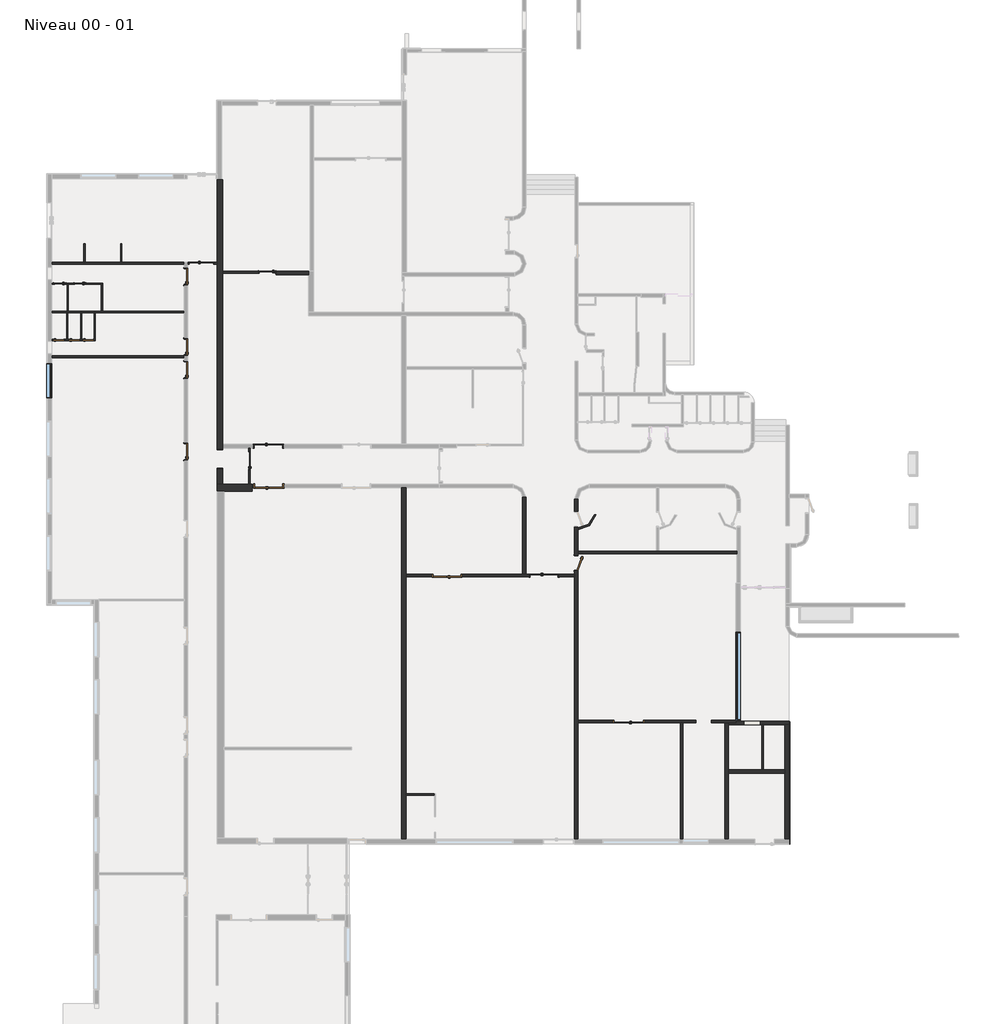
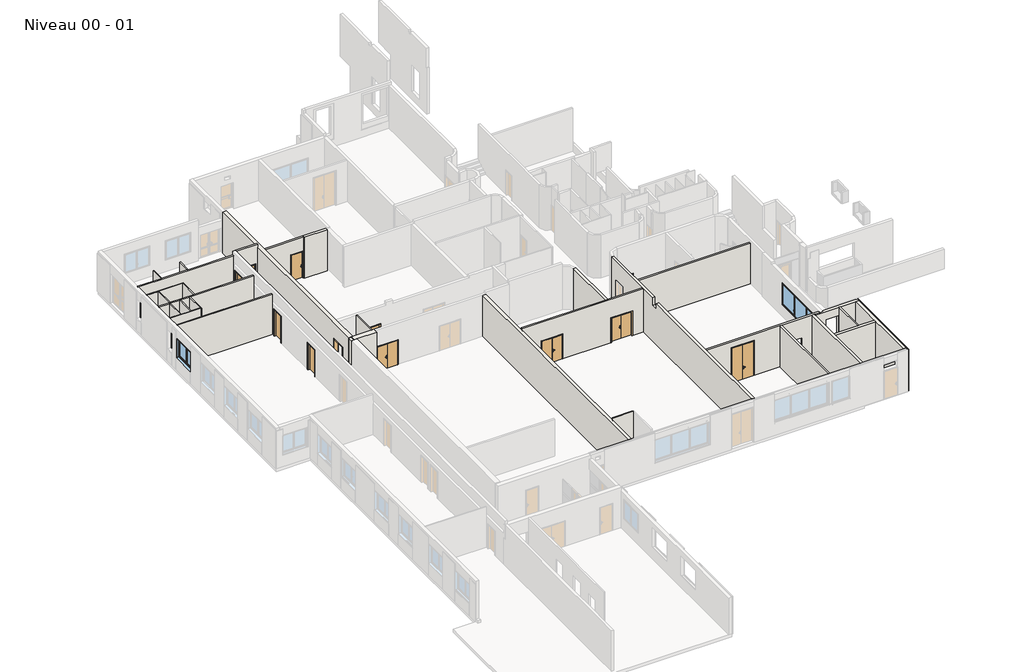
# One storey, part 4 of 8: 32 walls, 19 doors, 2 windows.
"""IFC4 building model written with IfcOpenShell, lengths in millimetres."""

from ifc_helpers import new_model, si_unit, point, frame, frame_2d, origin, place, context, project, spatial, polyline, circle_curve, trimmed, segment, composite_curve, outline, extrude, faceted_brep, transform, mapped, element, save
from components import door_50a5e481, door_373ab6a3, door_82d9676e, door_4948b6b3, door_5aba9885, double_r_1_43m_x_2_04m_b80630db, double_r_1_63m_x_2_04m_2a7b6570, double_r_1_63m_x_2_04m_f9d8fe67, double_r_1_63m_x_2_04m_f9c3b69e, double_r_1_73m_x_2_9m_4bc1b3c2, ouverture_en_rectangle_ouverture110x210_4d2e599e, window_180_x500_5ac30607, window_200_x_160_064ba838

model = new_model("IFC4")

# Units and contexts
model_context = context("Model", 3, world=origin())
ifc_project = project(units=[si_unit("LENGTHUNIT", "METRE", prefix="MILLI")], contexts=[model_context])

# Site, building, storey
site = spatial("IfcSite", under=ifc_project)
building = spatial("IfcBuilding", under=site)
storey = spatial("IfcBuildingStorey", under=building, Name="Niveau 00 - 01", Elevation=253.3082742)

# Doors
placement = place(None, origin())
door_shape = door_50a5e481(model_context)
element("IfcDoor", 1, ObjectType="@_Int. Simple : @_PP (0.63m x 2.04m)", at=placement, inside=storey, context=model_context, shape_type="MappedRepresentation", body=[
    mapped(door_shape, transform((-45352.9874559, -5802.305302, 253.3082742), x_axis=(1.0, 6.1910359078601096e-12, 0.0), y_axis=(-6.1910359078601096e-12, 1.0, 0.0), z_axis=(0.0, 0.0, 1.0))),
])
element("IfcDoor", 2, ObjectType="@_Int. Simple : @_PP (0.63m x 2.04m)", at=placement, inside=storey, context=model_context, shape_type="MappedRepresentation", body=[
    mapped(door_shape, transform((-44464.2374821, -5802.3053019, 253.3082742), x_axis=(1.0, 6.1910359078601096e-12, 0.0), y_axis=(-6.1910359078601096e-12, 1.0, 0.0), z_axis=(0.0, 0.0, 1.0))),
])
element("IfcDoor", 3, ObjectType="@_Int. Simple : @_PP (0.63m x 2.04m)", at=placement, inside=storey, context=model_context, shape_type="MappedRepresentation", body=[
    mapped(door_shape, transform((-43676.7814381, -5802.3053019, 253.3082742), x_axis=(1.0, 6.1910359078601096e-12, 0.0), y_axis=(-6.1910359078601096e-12, 1.0, 0.0), z_axis=(0.0, 0.0, 1.0))),
])
element("IfcDoor", 4, ObjectType="@_Int. Simple : @_PP (0.63m x 2.04m)", at=placement, inside=storey, context=model_context, shape_type="MappedRepresentation", body=[
    mapped(door_shape, transform((-44211.829971, -2598.201847, 253.3082742), x_axis=(-1.0, 0.0, 0.0), y_axis=(0.0, -1.0, 0.0), z_axis=(0.0, 0.0, 1.0))),
])
element("IfcDoor", 5, ObjectType="@_Int. Simple : @_PP (0.63m x 2.04m)", at=placement, inside=storey, context=model_context, shape_type="MappedRepresentation", body=[
    mapped(door_shape, transform((-45359.4790475, -2598.201847, 253.3082742), x_axis=(-1.0, 0.0, 0.0), y_axis=(0.0, -1.0, 0.0), z_axis=(0.0, 0.0, 1.0))),
])
door_2_shape = door_373ab6a3(model_context)
element("IfcDoor", 6, ObjectType="@_Int. Simple : @_PP (1.03m x 1.8m)", at=placement, inside=storey, context=model_context, shape_type="MappedRepresentation", body=[
    mapped(door_2_shape, transform((-34515.4589892, -12644.1151361, 253.3082742), x_axis=(0.0, 1.0, 0.0), y_axis=(-1.0, 0.0, 0.0), z_axis=(0.0, 0.0, 1.0))),
])
door_3_shape = door_82d9676e(model_context)
element("IfcDoor", 7, ObjectType="@_Int. Simple : @_PP (0.93m x 2.25)", at=placement, inside=storey, context=model_context, shape_type="MappedRepresentation", body=[
    mapped(door_3_shape, transform((-38143.9891749, -12131.6974193, 253.3082742), x_axis=(0.0, 1.0, 0.0), y_axis=(-1.0, 0.0, 0.0), z_axis=(0.0, 0.0, 1.0))),
])
element("IfcDoor", 8, ObjectType="@_Int. Simple : @_PP (0.93m x 2.25)", at=placement, inside=storey, context=model_context, shape_type="MappedRepresentation", body=[
    mapped(door_3_shape, transform((-38143.9891749, -7473.5, 253.3082742), x_axis=(0.0, 1.0, 0.0), y_axis=(-1.0, 0.0, 0.0), z_axis=(0.0, 0.0, 1.0))),
])
element("IfcDoor", 9, ObjectType="@_Int. Simple : @_PP (0.93m x 2.25)", at=placement, inside=storey, context=model_context, shape_type="MappedRepresentation", body=[
    mapped(door_3_shape, transform((-38143.9891749, -6173.5, 253.3082742), x_axis=(0.0, 1.0, 0.0), y_axis=(-1.0, 0.0, 0.0), z_axis=(0.0, 0.0, 1.0))),
])
element("IfcDoor", 10, ObjectType="@_Int. Simple : @_PP (0.93m x 2.25)", at=placement, inside=storey, context=model_context, shape_type="MappedRepresentation", body=[
    mapped(door_3_shape, transform((-38143.9891749, -2158.5, 253.3082742), x_axis=(0.0, 1.0, 0.0), y_axis=(-1.0, 0.0, 0.0), z_axis=(0.0, 0.0, 1.0))),
])
door_4_shape = door_4948b6b3(model_context)
element("IfcDoor", 11, ObjectType="@_Int. Simple : @_PP (0.83m x 2.04m)", at=placement, inside=storey, context=model_context, shape_type="MappedRepresentation", body=[
    mapped(door_4_shape, transform((-15897.6697002, -18548.9578999, 253.3082742), x_axis=(0.0, -1.0, 0.0), y_axis=(1.0, 0.0, 0.0), z_axis=(0.0, 0.0, 1.0))),
])
door_5_shape = door_5aba9885(model_context)
element("IfcDoor", 12, ObjectType="@_Int. Simple : @_PP (0.93m x 2.25)", at=placement, inside=storey, context=model_context, shape_type="MappedRepresentation", body=[
    mapped(door_5_shape, transform((-33539.7401237, -1937.894755, 253.3082742), x_axis=(-1.0, -6.1910359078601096e-12, 0.0), y_axis=(6.1910359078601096e-12, -1.0, 0.0), z_axis=(0.0, 0.0, 1.0))),
])
double_r_1_43m_x_2_04m_shape = double_r_1_43m_x_2_04m_b80630db(model_context)
element("IfcDoor", 13, ObjectType="Double (R) : 1.43m x 2.04m", at=placement, inside=storey, context=model_context, shape_type="MappedRepresentation", body=[
    mapped(double_r_1_43m_x_2_04m_shape, transform((-37243.9891766, -1431.0175877, 253.3082742), x_axis=(-1.0, -6.1910359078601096e-12, 0.0), y_axis=(6.1910359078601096e-12, -1.0, 0.0), z_axis=(0.0, 0.0, 1.0))),
])
double_r_1_63m_x_2_04m_shape = double_r_1_63m_x_2_04m_2a7b6570(model_context)
element("IfcDoor", 14, ObjectType="Double (R) : 1.63m x 2.04m", at=placement, inside=storey, context=model_context, shape_type="MappedRepresentation", body=[
    mapped(double_r_1_63m_x_2_04m_shape, transform((-17713.9891718, -19234.0543067, 253.3082742), x_axis=(-1.0, 0.0, 0.0), y_axis=(0.0, -1.0, 0.0), z_axis=(0.0, 0.0, 1.0))),
])
element("IfcDoor", 15, ObjectType="Double (R) : 1.63m x 2.04m", at=placement, inside=storey, context=model_context, shape_type="MappedRepresentation", body=[
    mapped(double_r_1_63m_x_2_04m_shape, transform((-23243.9891729, -19234.0543067, 253.3082742), x_axis=(1.0, 0.0, 0.0), y_axis=(0.0, 1.0, 0.0), z_axis=(0.0, 0.0, 1.0))),
])
double_r_1_63m_x_2_04m_2_shape = double_r_1_63m_x_2_04m_f9d8fe67(model_context)
element("IfcDoor", 16, ObjectType="Double (R) : 1.63m x 2.04m", at=placement, inside=storey, context=model_context, shape_type="MappedRepresentation", body=[
    mapped(double_r_1_63m_x_2_04m_2_shape, transform((-33435.4589892, -11859.0543063, 253.3082742), x_axis=(-1.0, -6.1910359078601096e-12, 0.0), y_axis=(6.1910359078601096e-12, -1.0, 0.0), z_axis=(0.0, 0.0, 1.0))),
])
double_r_1_63m_x_2_04m_3_shape = double_r_1_63m_x_2_04m_f9c3b69e(model_context)
element("IfcDoor", 17, ObjectType="Double (R) : 1.63m x 2.04m", at=placement, inside=storey, context=model_context, shape_type="MappedRepresentation", body=[
    mapped(double_r_1_63m_x_2_04m_3_shape, transform((-33410.4589892, -14129.1151366, 253.3082742), x_axis=(-1.0, 0.0, 0.0), y_axis=(0.0, -1.0, 0.0), z_axis=(0.0, 0.0, 1.0))),
])
double_r_1_73m_x_2_9m_shape = double_r_1_73m_x_2_9m_4bc1b3c2(model_context)
element("IfcDoor", 18, ObjectType="Double (R) : 1.73m x 2.9m", at=placement, inside=storey, context=model_context, shape_type="MappedRepresentation", body=[
    mapped(double_r_1_73m_x_2_9m_shape, transform((-12897.6247152, -27544.0543067, 253.3082742), x_axis=(1.0, 0.0, 0.0), y_axis=(0.0, 1.0, 0.0), z_axis=(0.0, 0.0, 1.0))),
])
ouverture_en_rectangle_ouverture110x210_shape = ouverture_en_rectangle_ouverture110x210_4d2e599e(model_context)
element("IfcDoor", 19, ObjectType="Ouverture en rectangle : Ouverture110x210", at=placement, inside=storey, context=model_context, shape_type="MappedRepresentation", body=[
    mapped(ouverture_en_rectangle_ouverture110x210_shape, transform((-36193.9891745, -12594.2708986, 253.3082742), x_axis=(0.0, 1.0, 0.0), y_axis=(-1.0, 0.0, 0.0), z_axis=(0.0, 0.0, 1.0))),
])

# Walls
element("IfcWall", 20, ObjectType="@_Générique - Int. 200 mm", at=placement, inside=storey, context=model_context, shape_type="Brep", body=[
    faceted_brep([(-3745.9483345, -27517.519909, 3701.8727639), (-3745.9483345, -27517.519909, 3200.0), (-3745.9483345, -27517.519909, 253.3082742), (-6531.0863322, -27517.519909, 253.3082742), (-6781.0863322, -27517.519909, 253.3082742), (-6781.0863322, -27517.519909, 3701.8727639), (-6531.0863322, -27517.519909, 3701.8727639), (-3945.9483345, -27517.519909, 3701.8727639), (-5386.0863322, -27517.519909, 893.3082742), (-5346.0863322, -27517.519909, 893.3082742), (-5346.0863322, -27517.519909, 3043.3082742), (-6376.0863322, -27517.519909, 3043.3082742), (-6376.0863322, -27517.519909, 893.3082742), (-6336.0863322, -27517.519909, 893.3082742), (-7215.9483335, -27717.519909, 253.3082742), (-5315.9483335, -27717.519909, 253.3082742), (-5215.9483335, -27717.519909, 253.3082742), (-3995.9483345, -27717.519909, 253.3082742), (-3745.9483345, -27717.519909, 253.3082742), (-3745.9483345, -27717.519909, 3701.8727639), (-3995.9483345, -27717.519909, 3701.8727639), (-7215.9483335, -27717.519909, 3701.8727639), (-6336.0863322, -27717.519909, 3003.3082742), (-5386.0863322, -27717.519909, 3003.3082742), (-5386.0863322, -27717.519909, 893.3082742), (-6336.0863322, -27717.519909, 893.3082742), (-7215.9483335, -27619.0543067, 253.3082742), (-6781.0863322, -27619.0543067, 253.3082742), (-3745.9483345, -27617.519909, 3701.8727639), (-6781.0863322, -27619.0543067, 3701.8727639), (-7215.9483335, -27619.0543067, 3701.8727639), (-6336.0863322, -27567.519909, 3003.3082742), (-5386.0863322, -27567.519909, 3003.3082742), (-5386.0863322, -27567.519909, 893.3082742), (-5346.0863322, -27567.519909, 893.3082742), (-6376.0863322, -27567.519909, 893.3082742), (-6336.0863322, -27567.519909, 893.3082742), (-5346.0863322, -27567.519909, 3043.3082742), (-6376.0863322, -27567.519909, 3043.3082742)], [[[0, 1, 2, 3, 4, 5, 6, 7], [8, 9, 10, 11, 12, 13]], [[14, 15, 16, 17, 18, 19, 20, 21], [22, 23, 24, 25]], [[18, 17, 16, 15, 14, 26, 27, 4, 3, 2]], [[21, 20, 19, 28, 0, 7, 6, 5, 29, 30]], [[0, 28, 19, 18, 2, 1]], [[31, 32, 23, 22]], [[33, 34, 9, 8, 13, 12, 35, 36, 25, 24]], [[32, 33, 24, 23]], [[36, 31, 22, 25]], [[9, 34, 37, 10]], [[32, 31, 36, 35, 38, 37, 34, 33]], [[10, 37, 38, 11]], [[35, 12, 11, 38]], [[14, 21, 30, 26]], [[29, 27, 26, 30]], [[27, 29, 5, 4]]]),
])
element("IfcWall", 21, ObjectType="@_Générique - Int. 120 mm", at=placement, inside=storey, context=model_context, shape_type="SweptSolid", body=[
    extrude(outline(polyline([(-1337.2482149, 0.0), (-1337.2482149, -3450.0), (-4390.1231711, -3450.0), (-4390.1231711, 0.0), (-2350.8741203, 0.0), (-2350.8741203, -2265.0), (-1350.8741203, -2265.0), (-1350.8741203, 0.0), (-1337.2482149, 0.0)])), frame((-31653.8660034, -1997.894755, 253.3082742), z_axis=(-6.1910359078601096e-12, 1.0, 0.0), x_axis=(1.0, 6.1910359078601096e-12, 0.0)), (0.0, 0.0, 1.0), 120.0),
])
element("IfcWall", 22, ObjectType="@_Générique - Int. 100 mm", at=placement, inside=storey, context=model_context, shape_type="SweptSolid", body=[
    extrude(outline(polyline([(-38243.9891749, -6811.0175876), (-45789.2374821, -6811.0175876), (-45789.2374821, -6711.0175876), (-38243.9891749, -6711.0175876), (-38243.9891749, -6811.0175876)])), frame((0.0, 0.0, 253.3082742), z_axis=(0.0, 0.0, 1.0), x_axis=(1.0, 0.0, 0.0)), (0.0, 0.0, 1.0), 3400.0),
])
element("IfcWall", 23, ObjectType="@_Générique - Int. 100 mm", at=placement, inside=storey, context=model_context, shape_type="Brep", body=[
    faceted_brep([(-45789.2374821, -4264.8229741, 253.3082742), (-44934.2374821, -4264.8229741, 253.3082742), (-44864.2374821, -4264.8229741, 253.3082742), (-44134.2374821, -4264.8229741, 253.3082742), (-44064.2374821, -4264.8229741, 253.3082742), (-43369.2374821, -4264.8229741, 253.3082742), (-43299.2374821, -4264.8229741, 253.3082742), (-38243.9891749, -4264.822974, 253.3082742), (-38243.9891749, -4264.822974, 3653.3082742), (-43299.2374821, -4264.8229741, 3653.3082742), (-43369.2374821, -4264.8229741, 3653.3082742), (-44064.2374821, -4264.8229741, 3653.3082742), (-44134.2374821, -4264.8229741, 3653.3082742), (-44864.2374821, -4264.8229741, 3653.3082742), (-44934.2374821, -4264.8229741, 3653.3082742), (-45789.2374821, -4264.8229741, 3653.3082742), (-45789.2374821, -4164.8229741, 253.3082742), (-45789.2374821, -4164.8229741, 3653.3082742), (-44909.7206129, -4164.8229741, 3653.3082742), (-44839.7206129, -4164.8229741, 3653.3082742), (-42953.9393291, -4164.8229741, 3653.3082742), (-42883.9393291, -4164.8229741, 3653.3082742), (-38243.9891749, -4164.822974, 3653.3082742), (-38243.9891749, -4164.822974, 253.3082742), (-42883.9393291, -4164.8229741, 253.3082742), (-42953.9393291, -4164.8229741, 253.3082742), (-44839.7206129, -4164.8229741, 253.3082742), (-44909.7206129, -4164.8229741, 253.3082742)], [[[0, 1, 2, 3, 4, 5, 6, 7, 8, 9, 10, 11, 12, 13, 14, 15]], [[16, 17, 18, 19, 20, 21, 22, 23, 24, 25, 26, 27]], [[7, 6, 5, 4, 3, 2, 1, 0, 16, 27, 26, 25, 24, 23]], [[8, 7, 23, 22]], [[0, 15, 17, 16]], [[15, 14, 13, 12, 11, 10, 9, 8, 22, 21, 20, 19, 18, 17]]]),
])
element("IfcWall", 24, ObjectType="@_Générique - Int. 100 mm", at=placement, inside=storey, context=model_context, shape_type="Brep", body=[
    faceted_brep([(-36343.9891745, -1481.0175876, 3953.3082742), (-38043.9891749, -1481.0175877, 3953.3082742), (-38043.9891749, -1481.0175877, 3083.9384073), (-38043.9891749, -1481.0175877, 2883.6639381), (-38043.9891749, -1481.0175877, 253.3082742), (-37993.9891766, -1481.0175877, 253.3082742), (-37993.9891766, -1481.0175877, 2328.3082742), (-36493.9891766, -1481.0175876, 2328.3082742), (-36493.9891766, -1481.0175876, 253.3082742), (-36343.9891745, -1481.0175876, 253.3082742), (-38043.9891749, -1381.0175877, 253.3082742), (-38043.9891749, -1381.0175877, 3953.3082742), (-36343.9891745, -1381.0175876, 3953.3082742), (-36343.9891745, -1381.0175876, 253.3082742), (-36493.9891766, -1381.0175876, 253.3082742), (-36493.9891766, -1381.0175876, 2328.3082742), (-37993.9891766, -1381.0175877, 2328.3082742), (-37993.9891766, -1381.0175877, 253.3082742)], [[[0, 1, 2, 3, 4, 5, 6, 7, 8, 9]], [[10, 11, 12, 13, 14, 15, 16, 17]], [[0, 9, 13, 12]], [[16, 6, 5, 17]], [[6, 16, 15, 7]], [[7, 15, 14, 8]], [[9, 8, 14, 13]], [[17, 5, 4, 10]], [[1, 0, 12, 11]], [[1, 11, 10, 4, 3, 2]]]),
    faceted_brep([(-45789.2374821, -1481.0175877, 3651.8727639), (-45789.2374821, -1481.0175877, 253.3082742), (-38243.9891749, -1481.0175877, 253.3082742), (-38243.9891749, -1481.0175877, 2873.1823822), (-38243.9891749, -1481.0175877, 3073.4568514), (-38243.9891749, -1481.0175877, 3653.3082742), (-45839.2374821, -1481.0175877, 3653.3082742), (-45839.2374821, -1481.0175877, 3651.8727639), (-45789.2374821, -1381.0175877, 253.3082742), (-45789.2374821, -1381.0175877, 3651.8727639), (-45839.2374821, -1381.0175877, 3651.8727639), (-45839.2374821, -1381.0175877, 3653.3082742), (-43952.5797272, -1381.0175877, 3653.3082742), (-43882.5797272, -1381.0175877, 3653.3082742), (-41852.5797272, -1381.0175877, 3653.3082742), (-41782.5797272, -1381.0175877, 3653.3082742), (-38243.9891749, -1381.0175877, 3653.3082742), (-38243.9891749, -1381.0175877, 253.3082742), (-41782.5797272, -1381.0175877, 253.3082742), (-41852.5797272, -1381.0175877, 253.3082742), (-43882.5797272, -1381.0175877, 253.3082742), (-43952.5797272, -1381.0175877, 253.3082742)], [[[0, 1, 2, 3, 4, 5, 6, 7]], [[8, 9, 10, 11, 12, 13, 14, 15, 16, 17, 18, 19, 20, 21]], [[5, 4, 3, 2, 17, 16]], [[1, 0, 9, 8]], [[7, 6, 11, 10]], [[1, 8, 21, 20, 19, 18, 17, 2]], [[10, 9, 0, 7]], [[11, 6, 5, 16, 15, 14, 13, 12]]]),
])
element("IfcWall", 25, ObjectType="@_Générique - Int. 100 mm", at=placement, inside=storey, context=model_context, shape_type="SweptSolid", body=[
    extrude(outline(polyline([(-14029.1151361, 253.3082742), (-14029.1151361, 3703.3082742), (-11969.0543063, 3703.3082742), (-11969.0543063, 253.3082742), (-12129.1151361, 253.3082742), (-12129.1151361, 2088.3082742), (-13229.1151361, 2088.3082742), (-13229.1151361, 253.3082742), (-14029.1151361, 253.3082742)])), frame((-34565.4589892, 0.0, 0.0), z_axis=(1.0, 0.0, 0.0), x_axis=(0.0, 1.0, 0.0)), (0.0, 0.0, 1.0), 100.0),
])
element("IfcWall", 26, ObjectType="@_Générique - Int. 70 mm", at=placement, inside=storey, context=model_context, shape_type="Brep", body=[
    faceted_brep([(-45789.2374821, -5837.305302, 3653.3082742), (-45789.2374821, -5837.305302, 253.3082742), (-45737.9874559, -5837.305302, 253.3082742), (-45737.9874559, -5837.305302, 2328.3082742), (-45037.9874559, -5837.3053019, 2328.3082742), (-45037.9874559, -5837.3053019, 253.3082742), (-44849.2374821, -5837.3053019, 253.3082742), (-44849.2374821, -5837.3053019, 2328.3082742), (-44149.2374821, -5837.3053019, 2328.3082742), (-44149.2374821, -5837.3053019, 253.3082742), (-44061.7814381, -5837.3053019, 253.3082742), (-44061.7814381, -5837.3053019, 2328.3082742), (-43369.2374821, -5837.3053019, 2328.3082742), (-43369.2374821, -5837.3053019, 3653.3082742), (-45789.2374821, -5767.305302, 253.3082742), (-45789.2374821, -5767.305302, 3653.3082742), (-44934.2374821, -5767.3053019, 3653.3082742), (-44864.2374821, -5767.3053019, 3653.3082742), (-44134.2374821, -5767.3053019, 3653.3082742), (-44064.2374821, -5767.3053019, 3653.3082742), (-43369.2374821, -5767.3053019, 3653.3082742), (-43369.2374821, -5767.3053019, 2328.3082742), (-44061.7814381, -5767.3053019, 2328.3082742), (-44061.7814381, -5767.3053019, 253.3082742), (-44064.2374821, -5767.3053019, 253.3082742), (-44134.2374821, -5767.3053019, 253.3082742), (-44149.2374821, -5767.3053019, 253.3082742), (-44149.2374821, -5767.3053019, 2328.3082742), (-44849.2374821, -5767.3053019, 2328.3082742), (-44849.2374821, -5767.3053019, 253.3082742), (-44864.2374821, -5767.3053019, 253.3082742), (-44934.2374821, -5767.3053019, 253.3082742), (-45037.9874559, -5767.3053019, 253.3082742), (-45037.9874559, -5767.3053019, 2328.3082742), (-45737.9874559, -5767.305302, 2328.3082742), (-45737.9874559, -5767.305302, 253.3082742)], [[[0, 1, 2, 3, 4, 5, 6, 7, 8, 9, 10, 11, 12, 13]], [[14, 15, 16, 17, 18, 19, 20, 21, 22, 23, 24, 25, 26, 27, 28, 29, 30, 31, 32, 33, 34, 35]], [[5, 32, 31, 30, 29, 6]], [[23, 10, 9, 26, 25, 24]], [[1, 14, 35, 2]], [[1, 0, 15, 14]], [[20, 13, 12, 21]], [[0, 13, 20, 19, 18, 17, 16, 15]], [[4, 33, 32, 5]], [[33, 4, 3, 34]], [[11, 22, 21, 12]], [[22, 11, 10, 23]], [[8, 27, 26, 9]], [[27, 8, 7, 28]], [[28, 7, 6, 29]], [[34, 3, 2, 35]]]),
])
element("IfcWall", 27, ObjectType="@_Générique - Int. 70 mm", at=placement, inside=storey, context=model_context, shape_type="Brep", body=[
    faceted_brep([(-43299.2374821, -5837.3053019, 253.3082742), (-43299.2374821, -4264.8229741, 253.3082742), (-43299.2374821, -4264.8229741, 3653.3082742), (-43299.2374821, -5837.3053019, 3653.3082742), (-43369.2374821, -4264.8229741, 3653.3082742), (-43369.2374821, -4264.8229741, 253.3082742), (-43369.2374821, -5767.3053019, 253.3082742), (-43369.2374821, -5767.3053019, 2328.3082742), (-43369.2374821, -5837.3053019, 2328.3082742), (-43369.2374821, -5837.3053019, 3653.3082742), (-43369.2374821, -5767.3053019, 3653.3082742), (-43361.7814381, -5837.3053019, 253.3082742), (-43361.7814381, -5767.3053019, 253.3082742), (-43361.7814381, -5837.3053019, 2328.3082742), (-43361.7814381, -5767.3053019, 2328.3082742)], [[[0, 1, 2, 3]], [[4, 5, 6, 7, 8, 9, 10]], [[1, 0, 11, 12, 6, 5]], [[0, 3, 9, 8, 13, 11]], [[2, 1, 5, 4]], [[3, 2, 4, 10, 9]], [[12, 14, 7, 6]], [[14, 12, 11, 13]], [[14, 13, 8, 7]]]),
])
element("IfcWall", 28, ObjectType="@_Générique - Int. 70 mm", at=placement, inside=storey, context=model_context, shape_type="SweptSolid", body=[
    extrude(outline(polyline([(-44064.2374821, -4264.8229741), (-44064.2374821, -5767.3053019), (-44134.2374821, -5767.3053019), (-44134.2374821, -4264.8229741), (-44064.2374821, -4264.8229741)])), frame((0.0, 0.0, 253.3082742), z_axis=(0.0, 0.0, 1.0), x_axis=(1.0, 0.0, 0.0)), (0.0, 0.0, 1.0), 3400.0),
])
element("IfcWall", 29, ObjectType="@_Générique - Int. 70 mm", at=placement, inside=storey, context=model_context, shape_type="SweptSolid", body=[
    extrude(outline(polyline([(-44864.2374821, -4264.8229741), (-44864.2374821, -5767.3053019), (-44934.2374821, -5767.3053019), (-44934.2374821, -4264.8229741), (-44864.2374821, -4264.8229741)])), frame((0.0, 0.0, 253.3082742), z_axis=(0.0, 0.0, 1.0), x_axis=(1.0, 0.0, 0.0)), (0.0, 0.0, 1.0), 3400.0),
])
element("IfcWall", 30, ObjectType="@_Générique - Int. 70 mm", at=placement, inside=storey, context=model_context, shape_type="SweptSolid", body=[
    extrude(outline(polyline([(-42883.9393291, -2633.201847), (-42883.9393291, -4164.8229741), (-42953.9393291, -4164.8229741), (-42953.9393291, -2633.201847), (-42883.9393291, -2633.201847)])), frame((0.0, 0.0, 253.3082742), z_axis=(0.0, 0.0, 1.0), x_axis=(1.0, 0.0, 0.0)), (0.0, 0.0, 1.0), 3400.0),
])
element("IfcWall", 31, ObjectType="@_Générique - Int. 70 mm", at=placement, inside=storey, context=model_context, shape_type="Brep", body=[
    faceted_brep([(-42883.9393291, -2563.201847, 3653.3082742), (-42883.9393291, -2563.201847, 253.3082742), (-43826.829971, -2563.201847, 253.3082742), (-43826.829971, -2563.201847, 2328.3082742), (-44526.829971, -2563.201847, 2328.3082742), (-44526.829971, -2563.201847, 253.3082742), (-44974.4790475, -2563.201847, 253.3082742), (-44974.4790475, -2563.201847, 2328.3082742), (-45674.4790475, -2563.201847, 2328.3082742), (-45674.4790475, -2563.201847, 253.3082742), (-45789.2374821, -2563.201847, 253.3082742), (-45789.2374821, -2563.201847, 3653.3082742), (-42883.9393291, -2633.201847, 253.3082742), (-42883.9393291, -2633.201847, 3653.3082742), (-42953.9393291, -2633.201847, 3653.3082742), (-44839.7206129, -2633.201847, 3653.3082742), (-44909.7206129, -2633.201847, 3653.3082742), (-45789.2374821, -2633.201847, 3653.3082742), (-45789.2374821, -2633.201847, 253.3082742), (-45674.4790475, -2633.201847, 253.3082742), (-45674.4790475, -2633.201847, 2328.3082742), (-44974.4790475, -2633.201847, 2328.3082742), (-44974.4790475, -2633.201847, 253.3082742), (-44909.7206129, -2633.201847, 253.3082742), (-44839.7206129, -2633.201847, 253.3082742), (-44526.829971, -2633.201847, 253.3082742), (-44526.829971, -2633.201847, 2328.3082742), (-43826.829971, -2633.201847, 2328.3082742), (-43826.829971, -2633.201847, 253.3082742), (-42953.9393291, -2633.201847, 253.3082742)], [[[0, 1, 2, 3, 4, 5, 6, 7, 8, 9, 10, 11]], [[12, 13, 14, 15, 16, 17, 18, 19, 20, 21, 22, 23, 24, 25, 26, 27, 28, 29]], [[1, 12, 29, 28, 2]], [[5, 25, 24, 23, 22, 6]], [[18, 10, 9, 19]], [[1, 0, 13, 12]], [[11, 10, 18, 17]], [[0, 11, 17, 16, 15, 14, 13]], [[4, 26, 25, 5]], [[26, 4, 3, 27]], [[27, 3, 2, 28]], [[8, 20, 19, 9]], [[20, 8, 7, 21]], [[21, 7, 6, 22]]]),
])
element("IfcWall", 32, ObjectType="@_Générique - Int. 70 mm", at=placement, inside=storey, context=model_context, shape_type="SweptSolid", body=[
    extrude(outline(polyline([(-44839.7206129, -2633.201847), (-44839.7206129, -4164.8229741), (-44909.7206129, -4164.8229741), (-44909.7206129, -2633.201847), (-44839.7206129, -2633.201847)])), frame((0.0, 0.0, 253.3082742), z_axis=(0.0, 0.0, 1.0), x_axis=(1.0, 0.0, 0.0)), (0.0, 0.0, 1.0), 3400.0),
])
element("IfcWall", 33, ObjectType="@_Générique - Int. 200 mm", at=placement, inside=storey, context=model_context, shape_type="Brep", body=[
    faceted_brep([(-7415.9483335, -27619.0543067, 253.3082742), (-7415.9483335, -34259.054307, 253.3082742), (-7415.9483335, -34259.054307, 3703.3082742), (-7415.9483335, -27619.0543067, 3703.3082742), (-7215.9483335, -27619.0543067, 253.3082742), (-7215.9483335, -27619.0543067, 3701.8727639), (-7215.9483335, -27619.0543067, 3703.3082742), (-7215.9483335, -30289.0543065, 3703.3082742), (-7215.9483335, -30489.0543065, 3703.3082742), (-7215.9483335, -34259.054307, 3703.3082742), (-7215.9483335, -34259.054307, 253.3082742), (-7215.9483335, -30489.0543065, 253.3082742), (-7215.9483335, -30289.0543065, 253.3082742), (-7215.9483335, -27717.519909, 253.3082742)], [[[0, 1, 2, 3]], [[4, 5, 6, 7, 8, 9, 10, 11, 12, 13]], [[1, 0, 4, 13, 12, 11, 10]], [[2, 1, 10, 9]], [[0, 3, 6, 5, 4]], [[3, 2, 9, 8, 7, 6]]]),
])
element("IfcWall", 34, ObjectType="@_Générique - Int. 200 mm", at=placement, inside=storey, context=model_context, shape_type="Brep", body=[
    faceted_brep([(-3995.9483345, -30289.0543065, 253.3082742), (-5215.9483335, -30289.0543065, 253.3082742), (-5315.9483335, -30289.0543065, 253.3082742), (-7215.9483335, -30289.0543065, 253.3082742), (-7215.9483335, -30289.0543065, 3703.3082742), (-5315.9483335, -30289.0543065, 3703.3082742), (-5215.9483335, -30289.0543065, 3703.3082742), (-3995.9483345, -30289.0543065, 3703.3082742), (-3995.9483345, -30489.0543065, 253.3082742), (-3995.9483345, -30489.0543065, 3703.3082742), (-7215.9483335, -30489.0543065, 3703.3082742), (-7215.9483335, -30489.0543065, 253.3082742)], [[[0, 1, 2, 3, 4, 5, 6, 7]], [[8, 9, 10, 11]], [[3, 2, 1, 0, 8, 11]], [[4, 3, 11, 10]], [[0, 7, 9, 8]], [[7, 6, 5, 4, 10, 9]]]),
])
element("IfcWall", 35, ObjectType="@_Générique - Int. 100 mm", at=placement, inside=storey, context=model_context, shape_type="SweptSolid", body=[
    extrude(outline(polyline([(-5215.9483335, -27717.519909), (-5215.9483335, -30289.0543065), (-5315.9483335, -30289.0543065), (-5315.9483335, -27717.519909), (-5215.9483335, -27717.519909)])), frame((0.0, 0.0, 253.3082742), z_axis=(0.0, 0.0, 1.0), x_axis=(1.0, 0.0, 0.0)), (0.0, 0.0, 1.0), 3450.0),
])
element("IfcWall", 36, ObjectType="Mur EXE 40- Hach", at=placement, inside=storey, context=model_context, shape_type="Brep", body=[
    faceted_brep([(-3745.9483345, -27561.9279388, 253.3082742), (-3745.9483345, -34509.054307, 253.3082742), (-3745.9483345, -34549.054307, 253.3082742), (-3745.9483345, -34549.054307, 3741.8727639), (-3745.9483345, -34509.054307, 3741.8727639), (-3745.9483345, -27561.9279388, 3741.8727639), (-3745.9483345, -33058.769554, 1325.2346912), (-3745.9483345, -33758.769554, 1325.2346912), (-3745.9483345, -33758.769554, 625.2346912), (-3745.9483345, -33058.769554, 625.2346912), (-3705.9483345, -27561.9279388, 253.3082742), (-3705.9483345, -27561.9279388, 3741.8727639), (-3705.9483345, -34549.054307, 3741.8727639), (-3705.9483345, -34549.054307, 253.3082742), (-3705.9483345, -33058.769554, 1325.2346912), (-3705.9483345, -33058.769554, 625.2346912), (-3705.9483345, -33758.769554, 625.2346912), (-3705.9483345, -33758.769554, 1325.2346912)], [[[0, 1, 2, 3, 4, 5], [6, 7, 8, 9]], [[10, 11, 12, 13], [14, 15, 16, 17]], [[2, 1, 0, 10, 13]], [[5, 4, 3, 12, 11]], [[0, 5, 11, 10]], [[15, 14, 6, 9]], [[16, 15, 9, 8]], [[17, 16, 8, 7]], [[14, 17, 7, 6]], [[3, 2, 13, 12]]]),
])
element("IfcWall", 37, ObjectType="@_Générique - Int. 100 mm", at=placement, inside=storey, context=model_context, shape_type="SweptSolid", body=[
    extrude(outline(composite_curve([segment(polyline([(-14844.0270184, -15752.9066224), (-14746.2517393, -15773.8826751)]), True, "CONTINUOUS"), segment(trimmed(circle_curve(frame_2d((-15782.6696983, -15551.5365166)), 1060.0), [point((-14746.2517393, -15773.8826751))], [point((-15797.6697002, -16611.4303792))], False, "CARTESIAN"), True, "CONTINUOUS"), segment(polyline([(-15797.6697002, -16611.4303792), (-15797.6697002, -16511.419322)]), True, "CONTINUOUS"), segment(trimmed(circle_curve(frame_2d((-15782.6696983, -15551.5365166)), 960.0), [point((-15797.6697002, -16511.419322))], [point((-14844.0270184, -15752.9066224))], True, "CARTESIAN"), True, "CONTINUOUS")], self_intersect=False)), frame((0.0, 0.0, 253.3082742), z_axis=(0.0, 0.0, 1.0), x_axis=(1.0, 0.0, 0.0)), (0.0, 0.0, 1.0), 2350.0),
])
element("IfcWall", 38, ObjectType="@_Générique - Int. 70 mm", at=placement, inside=storey, context=model_context, shape_type="SweptSolid", body=[
    extrude(outline(polyline([(-41852.5797272, -1381.0175877), (-41852.5797272, -318.201847), (-41782.5797272, -318.201847), (-41782.5797272, -1381.0175877), (-41852.5797272, -1381.0175877)])), frame((0.0, 0.0, 253.3082742), z_axis=(0.0, 0.0, 1.0), x_axis=(1.0, 0.0, 0.0)), (0.0, 0.0, 1.0), 3400.0),
])
element("IfcWall", 39, ObjectType="@_Générique - Int. 70 mm", at=placement, inside=storey, context=model_context, shape_type="SweptSolid", body=[
    extrude(outline(polyline([(-43952.5797272, -1381.0175877), (-43952.5797272, -318.201847), (-43882.5797272, -318.201847), (-43882.5797272, -1381.0175877), (-43952.5797272, -1381.0175877)])), frame((0.0, 0.0, 253.3082742), z_axis=(0.0, 0.0, 1.0), x_axis=(1.0, 0.0, 0.0)), (0.0, 0.0, 1.0), 3400.0),
])
element("IfcWall", 40, ObjectType="Mur EXE 250- Hach 2 faces", at=placement, inside=storey, context=model_context, shape_type="Brep", body=[
    faceted_brep([(-3745.9483345, -34259.054307, 253.3082742), (-3745.9483345, -27717.519909, 253.3082742), (-3745.9483345, -27717.519909, 3701.8727639), (-3745.9483345, -34259.054307, 3701.8727639), (-3995.9483345, -34259.054307, 253.3082742), (-3995.9483345, -34259.054307, 3701.8727639), (-3995.9483345, -27717.519909, 3701.8727639), (-3995.9483345, -27717.519909, 253.3082742), (-3995.9483345, -30289.0543065, 253.3082742), (-3995.9483345, -30489.0543065, 253.3082742)], [[[0, 1, 2, 3]], [[4, 5, 6, 7, 8, 9]], [[1, 0, 4, 9, 8, 7]], [[3, 2, 6, 5]], [[1, 7, 6, 2]], [[0, 3, 5, 4]]]),
])
element("IfcWall", 41, ObjectType="@_Générique - Int. 70 mm", at=placement, inside=storey, context=model_context, shape_type="SweptSolid", body=[
    extrude(outline(polyline([(-23963.9891725, -31739.0543071), (-25593.9891728, -31739.0543071), (-25593.9891728, -31669.0543071), (-23963.9891725, -31669.0543071), (-23963.9891725, -31739.0543071)])), frame((0.0, 0.0, 253.3082742), z_axis=(0.0, 0.0, 1.0), x_axis=(1.0, 0.0, 0.0)), (0.0, 0.0, 1.0), 3668.5644896),
])
element("IfcWall", 42, ObjectType="@_Générique - Int. 200 mm", at=placement, inside=storey, context=model_context, shape_type="Brep", body=[
    faceted_brep([(-32991.1142183, -2077.894755, 253.3082742), (-31151.1142183, -2077.894755, 253.3082742), (-31151.1142183, -2077.894755, 3703.3082742), (-32991.1142183, -2077.894755, 3703.3082742), (-32991.1142183, -1877.894755, 253.3082742), (-32991.1142183, -1877.894755, 3703.3082742), (-31151.1142183, -1877.894755, 3703.3082742), (-31151.1142183, -1877.894755, 253.3082742), (-32991.1142183, -1997.894755, 253.3082742), (-32991.1142183, -1997.894755, 3703.3082742)], [[[0, 1, 2, 3]], [[4, 5, 6, 7]], [[1, 0, 8, 4, 7]], [[2, 1, 7, 6]], [[0, 3, 9, 5, 4, 8]], [[3, 2, 6, 5, 9]]]),
])
element("IfcWall", 43, ObjectType="Ext. Voile BA 150", at=placement, inside=storey, context=model_context, shape_type="Brep", body=[
    faceted_brep([(-15997.6697002, -19159.0543067, 3871.8727639), (-15997.6697002, -19159.0543067, 253.3082742), (-16863.9891718, -19159.0543067, 253.3082742), (-16863.9891718, -19159.0543067, 2328.3082742), (-18563.9891718, -19159.0543067, 2328.3082742), (-18563.9891718, -19159.0543067, 253.3082742), (-18743.9891718, -19159.0543067, 253.3082742), (-18943.9891718, -19159.0543067, 253.3082742), (-22393.9891729, -19159.0543067, 253.3082742), (-22393.9891729, -19159.0543067, 2328.3082742), (-24093.9891729, -19159.0543067, 2328.3082742), (-24093.9891729, -19159.0543067, 253.3082742), (-25593.9891729, -19159.0543067, 253.3082742), (-25593.9891729, -19159.0543067, 3871.8727639), (-18943.9891718, -19159.0543067, 3871.8727639), (-18743.9891718, -19159.0543067, 3871.8727639), (-15997.6697002, -19309.0543067, 253.3082742), (-15997.6697002, -19309.0543067, 3871.8727639), (-25593.9891729, -19309.0543067, 3871.8727639), (-25593.9891729, -19309.0543067, 253.3082742), (-24093.9891729, -19309.0543067, 253.3082742), (-24093.9891729, -19309.0543067, 2328.3082742), (-22393.9891729, -19309.0543067, 2328.3082742), (-22393.9891729, -19309.0543067, 253.3082742), (-18563.9891718, -19309.0543067, 253.3082742), (-18563.9891718, -19309.0543067, 2328.3082742), (-16863.9891718, -19309.0543067, 2328.3082742), (-16863.9891718, -19309.0543067, 253.3082742)], [[[0, 1, 2, 3, 4, 5, 6, 7, 8, 9, 10, 11, 12, 13, 14, 15]], [[16, 17, 18, 19, 20, 21, 22, 23, 24, 25, 26, 27]], [[1, 16, 27, 2]], [[19, 12, 11, 20]], [[23, 8, 7, 6, 5, 24]], [[1, 0, 17, 16]], [[13, 12, 19, 18]], [[0, 15, 14, 13, 18, 17]], [[22, 9, 8, 23]], [[9, 22, 21, 10]], [[10, 21, 20, 11]], [[4, 25, 24, 5]], [[25, 4, 3, 26]], [[26, 3, 2, 27]]]),
])
element("IfcWall", 44, ObjectType="Ext. Voile BA 150", at=placement, inside=storey, context=model_context, shape_type="Brep", body=[
    faceted_brep([(-6731.0863278, -17843.1151165, 253.3082742), (-11164.5180735, -17843.1151165, 253.3082742), (-11314.5180735, -17843.1151165, 253.3082742), (-15797.6697002, -17843.1151165, 253.3082742), (-15797.6697002, -17843.1151165, 3653.3082742), (-6731.0863278, -17843.1151165, 3653.3082742), (-6731.0863278, -17993.1151165, 253.3082742), (-6731.0863278, -17993.1151165, 3653.3082742), (-15797.6697002, -17993.1151165, 3653.3082742), (-15797.6697002, -17993.1151165, 253.3082742)], [[[0, 1, 2, 3, 4, 5]], [[6, 7, 8, 9]], [[3, 2, 1, 0, 6, 9]], [[5, 4, 8, 7]], [[4, 3, 9, 8]], [[0, 5, 7, 6]]]),
])
element("IfcWall", 45, ObjectType="Ext. Voile BA 150", at=placement, inside=storey, context=model_context, shape_type="Brep", body=[
    faceted_brep([(-9957.6696986, -27619.0543067, 253.3082742), (-9957.6696986, -34259.054307, 253.3082742), (-9957.6696986, -34259.054307, 3703.3082742), (-9957.6696986, -27619.0543067, 3703.3082742), (-9807.6696986, -27619.0543067, 253.3082742), (-9807.6696986, -27619.0543067, 3703.3082742), (-9807.6696986, -34259.054307, 3703.3082742), (-9807.6696986, -34259.054307, 3153.3082742), (-9807.6696986, -34259.054307, 1253.3082742), (-9807.6696986, -34259.054307, 253.3082742)], [[[0, 1, 2, 3]], [[4, 5, 6, 7, 8, 9]], [[1, 0, 4, 9]], [[2, 1, 9, 8, 7, 6]], [[0, 3, 5, 4]], [[3, 2, 6, 5]]]),
])
element("IfcWall", 46, ObjectType="Ext. Voile BA 150", at=placement, inside=storey, context=model_context, shape_type="Brep", body=[
    faceted_brep([(-15797.6697002, -27469.0543067, 253.3082742), (-15797.6697002, -27469.0543067, 3703.3082742), (-6781.0863322, -27469.0543067, 3703.3082742), (-6781.0863322, -27469.0543067, 253.3082742), (-8166.1906223, -27469.0543067, 253.3082742), (-8166.1906223, -27469.0543067, 2075.0), (-9066.1906223, -27469.0543067, 2075.0), (-9066.1906223, -27469.0543067, 253.3082742), (-11997.6247152, -27469.0543067, 253.3082742), (-11997.6247152, -27469.0543067, 3188.3082742), (-13797.6247152, -27469.0543067, 3188.3082742), (-13797.6247152, -27469.0543067, 253.3082742), (-15797.6697002, -27619.0543067, 3703.3082742), (-15797.6697002, -27619.0543067, 253.3082742), (-13797.6247152, -27619.0543067, 253.3082742), (-13797.6247152, -27619.0543067, 3188.3082742), (-11997.6247152, -27619.0543067, 3188.3082742), (-11997.6247152, -27619.0543067, 253.3082742), (-9957.6696986, -27619.0543067, 253.3082742), (-9807.6696986, -27619.0543067, 253.3082742), (-9066.1906223, -27619.0543067, 253.3082742), (-9066.1906223, -27619.0543067, 2075.0), (-8166.1906223, -27619.0543067, 2075.0), (-8166.1906223, -27619.0543067, 253.3082742), (-7415.9483335, -27619.0543067, 253.3082742), (-7215.9483335, -27619.0543067, 253.3082742), (-6781.0863322, -27619.0543067, 253.3082742), (-6781.0863322, -27619.0543067, 3701.8727639), (-6781.0863322, -27619.0543067, 3703.3082742), (-7215.9483335, -27619.0543067, 3703.3082742), (-7415.9483335, -27619.0543067, 3703.3082742), (-9807.6696986, -27619.0543067, 3703.3082742), (-9957.6696986, -27619.0543067, 3703.3082742), (-6781.0863322, -27517.519909, 253.3082742)], [[[0, 1, 2, 3, 4, 5, 6, 7, 8, 9, 10, 11]], [[12, 13, 14, 15, 16, 17, 18, 19, 20, 21, 22, 23, 24, 25, 26, 27, 28, 29, 30, 31, 32]], [[13, 0, 11, 14]], [[17, 8, 7, 20, 19, 18]], [[3, 33, 26, 25, 24, 23, 4]], [[0, 13, 12, 1]], [[2, 1, 12, 32, 31, 30, 29, 28]], [[16, 9, 8, 17]], [[9, 16, 15, 10]], [[10, 15, 14, 11]], [[22, 5, 4, 23]], [[5, 22, 21, 6]], [[6, 21, 20, 7]], [[3, 2, 28, 27, 26, 33]]]),
])
element("IfcWall", 47, ObjectType="Ext. Voile BA 200", at=placement, inside=storey, context=model_context, shape_type="Brep", body=[
    faceted_brep([(-15997.6697002, -14879.1151357, 3871.8727639), (-15997.6697002, -14879.1151357, 253.3082742), (-15997.6697002, -15569.0885527, 253.3082742), (-15997.6697002, -15569.0885527, 2328.3082742), (-15997.6697002, -16469.0885527, 2328.3082742), (-15997.6697002, -16469.0885527, 253.3082742), (-15997.6697002, -18063.9578999, 253.3082742), (-15997.6697002, -18063.9578999, 2328.3082742), (-15997.6697002, -18963.9578999, 2328.3082742), (-15997.6697002, -18963.9578999, 253.3082742), (-15997.6697002, -19159.0543067, 253.3082742), (-15997.6697002, -19309.0543067, 253.3082742), (-15997.6697002, -34259.054307, 253.3082742), (-15997.6697002, -34259.054307, 3703.3082742), (-15997.6697002, -29088.571453, 3703.3082742), (-15997.6697002, -23238.571453, 3703.3082742), (-15997.6697002, -21061.25307, 3703.3082742), (-15997.6697002, -21061.25307, 3221.8727639), (-15997.6697002, -20511.25307, 3221.8727639), (-15997.6697002, -20511.25307, 3871.8727639), (-15997.6697002, -19309.0543067, 3871.8727639), (-15997.6697002, -19159.0543067, 3871.8727639), (-15797.6697002, -14879.1151357, 253.3082742), (-15797.6697002, -14879.1151357, 3871.8727639), (-15797.6697002, -20511.25307, 3871.8727639), (-15797.6697002, -20511.25307, 3221.8727639), (-15797.6697002, -21061.25307, 3221.8727639), (-15797.6697002, -21061.25307, 3703.3082742), (-15797.6697002, -27469.0543067, 3703.3082742), (-15797.6697002, -27619.0543067, 3703.3082742), (-15797.6697002, -34259.054307, 3703.3082742), (-15797.6697002, -34259.054307, 253.3082742), (-15797.6697002, -27619.0543067, 253.3082742), (-15797.6697002, -27469.0543067, 253.3082742), (-15797.6697002, -18963.9578999, 253.3082742), (-15797.6697002, -18963.9578999, 2328.3082742), (-15797.6697002, -18063.9578999, 2328.3082742), (-15797.6697002, -18063.9578999, 253.3082742), (-15797.6697002, -17993.1151165, 253.3082742), (-15797.6697002, -17843.1151165, 253.3082742), (-15797.6697002, -16611.4303792, 253.3082742), (-15797.6697002, -16511.419322, 253.3082742), (-15797.6697002, -16469.0885527, 253.3082742), (-15797.6697002, -16469.0885527, 2328.3082742), (-15797.6697002, -15569.0885527, 2328.3082742), (-15797.6697002, -15569.0885527, 253.3082742), (-15992.6697002, -34259.054307, 253.3082742)], [[[0, 1, 2, 3, 4, 5, 6, 7, 8, 9, 10, 11, 12, 13, 14, 15, 16, 17, 18, 19, 20, 21]], [[22, 23, 24, 25, 26, 27, 28, 29, 30, 31, 32, 33, 34, 35, 36, 37, 38, 39, 40, 41, 42, 43, 44, 45]], [[31, 46, 12, 11, 10, 9, 34, 33, 32]], [[1, 22, 45, 2]], [[5, 42, 41, 40, 39, 38, 37, 6]], [[1, 0, 23, 22]], [[3, 2, 45, 44]], [[43, 4, 3, 44]], [[4, 43, 42, 5]], [[9, 8, 35, 34]], [[8, 7, 36, 35]], [[7, 6, 37, 36]], [[23, 0, 21, 20, 19, 24]], [[12, 46, 31, 30, 13]], [[14, 13, 30, 29, 28, 27, 16, 15]], [[26, 17, 16, 27]], [[17, 26, 25, 18]], [[18, 25, 24, 19]]]),
])
element("IfcWall", 48, ObjectType="Ext. Voile BA 200", at=placement, inside=storey, context=model_context, shape_type="SweptSolid", body=[
    extrude(outline(polyline([(-18943.9891718, -19159.0543067), (-18943.989172, -14779.1151405), (-18743.989172, -14779.1151405), (-18743.9891718, -19159.0543067), (-18943.9891718, -19159.0543067)])), frame((0.0, 0.0, 253.3082742), z_axis=(0.0, 0.0, 1.0), x_axis=(1.0, 0.0, 0.0)), (0.0, 0.0, 1.0), 3618.5644896),
])
element("IfcWall", 49, ObjectType="Ext. Voile BA 250", at=placement, inside=storey, context=model_context, shape_type="Brep", body=[
    faceted_brep([(-25843.9891729, -14239.1151366, 253.3082742), (-25843.9891728, -34259.054307, 253.3082742), (-25843.9891728, -34259.054307, 3703.3082742), (-25843.9891729, -14239.1151366, 3703.3082742), (-25593.9891729, -14239.1151366, 253.3082742), (-25593.9891729, -14239.1151366, 3703.3082742), (-25593.9891728, -34259.054307, 3703.3082742), (-25593.9891728, -34259.054307, 253.3082742), (-25593.9891728, -31739.0543071, 253.3082742), (-25593.9891728, -31669.0543071, 253.3082742), (-25593.9891729, -19309.0543067, 253.3082742), (-25593.9891729, -19159.0543067, 253.3082742)], [[[0, 1, 2, 3]], [[4, 5, 6, 7, 8, 9, 10, 11]], [[1, 0, 4, 11, 10, 9, 8, 7]], [[3, 2, 6, 5]], [[0, 3, 5, 4]], [[2, 1, 7, 6]]]),
])
element("IfcWall", 50, ObjectType="Ext. Voile BA 300", at=placement, inside=storey, context=model_context, shape_type="Brep", body=[
    faceted_brep([(-36343.9891745, -14029.1151361, 3703.3082742), (-36343.9891745, 3334.6445068, 3703.3082742), (-36343.9891745, 3334.6445068, 253.3082742), (-36343.9891745, -1381.0175876, 253.3082742), (-36343.9891745, -1481.0175876, 253.3082742), (-36343.9891745, -12044.2708986, 253.3082742), (-36343.9891745, -12044.2708986, 2353.3082742), (-36343.9891745, -13144.2708986, 2353.3082742), (-36343.9891745, -13144.2708986, 253.3082742), (-36343.9891745, -14029.1151361, 253.3082742), (-36343.9891745, -14029.1151361, 3653.3082742), (-36043.9891745, 3334.6445068, 3703.3082742), (-36043.9891745, -1877.8947551, 3703.3082742), (-36043.9891745, -1997.8947551, 3703.3082742), (-36043.9891745, -11749.0543063, 3703.3082742), (-36043.9891745, -11969.0543063, 3703.3082742), (-36043.9891745, -14029.1151361, 3703.3082742), (-36043.9891745, -14029.1151361, 253.3082742), (-36043.9891745, -13144.2708986, 253.3082742), (-36043.9891745, -13144.2708986, 2353.3082742), (-36043.9891745, -12044.2708986, 2353.3082742), (-36043.9891745, -12044.2708986, 253.3082742), (-36043.9891745, -11969.0543063, 253.3082742), (-36043.9891745, -11749.0543063, 253.3082742), (-36043.9891745, -1997.8947551, 253.3082742), (-36043.9891745, -1877.8947551, 253.3082742), (-36043.9891745, 3334.6445068, 253.3082742), (-36143.9891745, -14029.1151361, 3703.3082742)], [[[0, 1, 2, 3, 4, 5, 6, 7, 8, 9, 10]], [[11, 12, 13, 14, 15, 16, 17, 18, 19, 20, 21, 22, 23, 24, 25, 26]], [[2, 26, 25, 24, 23, 22, 21, 5, 4, 3]], [[17, 9, 8, 18]], [[1, 0, 27, 16, 15, 14, 13, 12, 11]], [[2, 1, 11, 26]], [[0, 10, 9, 17, 16, 27]], [[20, 6, 5, 21]], [[7, 19, 18, 8]], [[19, 7, 6, 20]]]),
])
element("IfcWall", 51, ObjectType="Ext. Voile BA 400", at=placement, inside=storey, context=model_context, shape_type="Brep", body=[
    faceted_brep([(-36343.9891743, -14429.1151361, 253.3082742), (-35943.9891743, -14429.1151361, 253.3082742), (-34345.4589898, -14429.1151361, 253.3082742), (-34345.4589898, -14429.1151361, 3703.3082742), (-35943.9891743, -14429.1151361, 3703.3082742), (-36143.9891745, -14429.1151361, 3703.3082742), (-36143.9891745, -14429.1151361, 3653.3082742), (-36343.9891743, -14429.1151361, 3653.3082742), (-36343.9891743, -14029.1151361, 253.3082742), (-36343.9891743, -14029.1151361, 3653.3082742), (-36143.9891745, -14029.1151361, 3653.3082742), (-36143.9891745, -14029.1151361, 3703.3082742), (-36043.9891745, -14029.1151361, 3703.3082742), (-34345.4589898, -14029.1151361, 3703.3082742), (-34345.4589898, -14029.1151361, 253.3082742), (-36043.9891745, -14029.1151361, 253.3082742)], [[[0, 1, 2, 3, 4, 5, 6, 7]], [[8, 9, 10, 11, 12, 13, 14, 15]], [[2, 1, 0, 8, 15, 14]], [[3, 2, 14, 13]], [[0, 7, 9, 8]], [[7, 6, 10, 9]], [[10, 6, 5, 11]], [[5, 4, 3, 13, 12, 11]]]),
])

# Windows
window_180_x500_shape = window_180_x500_5ac30607(model_context)
element("IfcWindow", 52, ObjectType="3 Vantaux : 180 x500", at=placement, inside=storey, context=model_context, shape_type="MappedRepresentation", body=[
    mapped(window_180_x500_shape, transform((-6656.0863322, -24966.9279388, 453.3082742), x_axis=(0.0, 1.0, 0.0), y_axis=(-1.0, 0.0, 0.0), z_axis=(0.0, 0.0, 1.0))),
])
window_200_x_160_shape = window_200_x_160_064ba838(model_context)
element("IfcWindow", 53, ObjectType="2 Vantaux : 200 x 160", at=placement, inside=storey, context=model_context, shape_type="MappedRepresentation", body=[
    mapped(window_200_x_160_shape, transform((-45914.2374821, -8126.6974201, 453.3082742), x_axis=(0.0, 1.0, 0.0), y_axis=(-1.0, 0.0, 0.0), z_axis=(0.0, 0.0, 1.0))),
])

save(model, "model.ifc")
